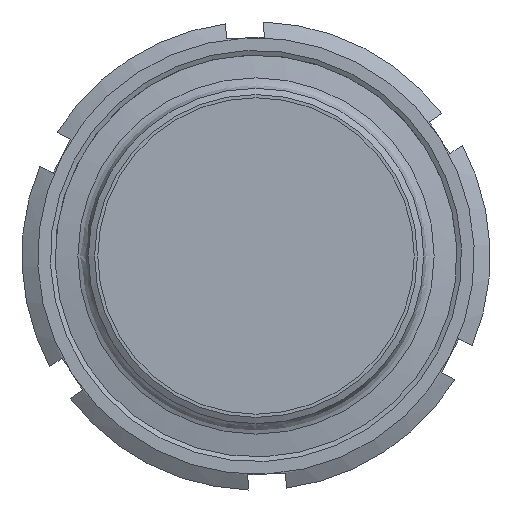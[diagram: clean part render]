
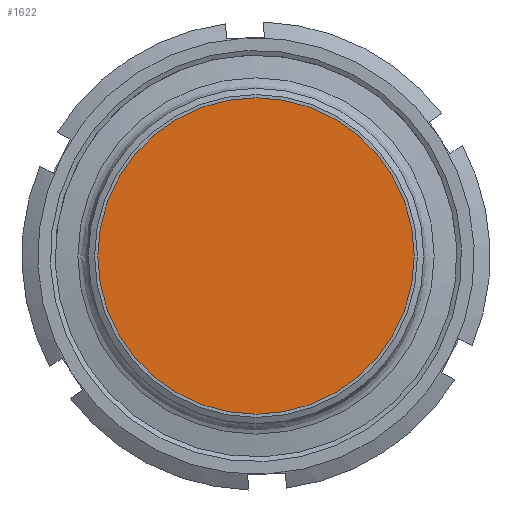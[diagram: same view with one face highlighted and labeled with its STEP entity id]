
A CAD part, left-side view. The second image highlights one B-rep face of the part: STEP entity #1622.
In plain terms, the highlighted planar face has unit normal (-1, 0, 0).
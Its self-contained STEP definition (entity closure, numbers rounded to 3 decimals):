
#1606=CARTESIAN_POINT('',(44.,0.,0.));
#1607=DIRECTION('',(-1.0,0.0,0.0));
#1608=DIRECTION('',(0.0,1.0,0.0));
#1609=AXIS2_PLACEMENT_3D('',#1606,#1607,#1608);
#1610=PLANE('',#1609);
#1611=CARTESIAN_POINT('',(44.,50.,0.0));
#1612=VERTEX_POINT('',#1611);
#1613=CARTESIAN_POINT('',(44.0,0.,0.0));
#1614=DIRECTION('',(1.0,0.0,0.0));
#1615=DIRECTION('',(0.0,1.0,0.0));
#1616=AXIS2_PLACEMENT_3D('',#1613,#1614,#1615);
#1617=CIRCLE('',#1616,50.0);
#1618=EDGE_CURVE('',#1612,#1612,#1617,.T.);
#1619=ORIENTED_EDGE('',*,*,#1618,.F.);
#1620=EDGE_LOOP('',(#1619));
#1621=FACE_OUTER_BOUND('',#1620,.T.);
#1622=ADVANCED_FACE('',(#1621),#1610,.T.);
